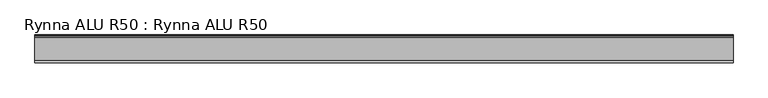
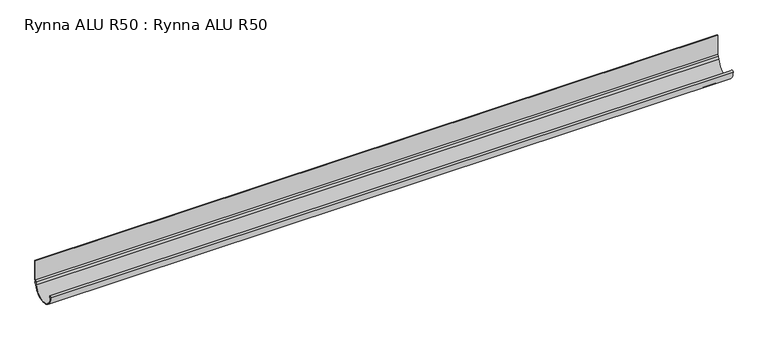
"""IFC4 building model written with IfcOpenShell, lengths in millimetres: proxy geometry, Rynna ALU R50 : Rynna ALU R50."""

from ifc_helpers import new_model, si_unit, point, frame, frame_2d, origin, place, context, project, spatial, polyline, circle_curve, trimmed, segment, composite_curve, outline, extrude, source, transform, mapped, element, save


def rynna_alu_r50_rynna_alu_r50_1eff210a(model_context):
    return source(origin(), model_context, "Body", "SweptSolid", [
        extrude(outline(composite_curve([segment(polyline([(0.6978396, 0.0), (0.6978396, -39.5252625), (-1.8149767, -41.8701356), (-2.328284, -45.5225054), (0.9565767, -44.1281649), (0.1767814, -46.0765907), (-2.6292486, -47.6619658)]), True, "CONTINUOUS"), segment(trimmed(circle_curve(frame_2d((-27.3646611, -44.302303)), 24.9625312), [point((-2.6292486, -47.6619658))], [point((-52.3271923, -44.302303))], False, "CARTESIAN"), True, "CONTINUOUS"), segment(trimmed(circle_curve(frame_2d((-50.3771937, -44.3000011)), 1.95), [point((-52.3271923, -44.302303))], [point((-50.8512717, -46.1914952))], False, "CARTESIAN"), True, "CONTINUOUS"), segment(trimmed(circle_curve(frame_2d((-27.3646611, -44.302303)), 23.5624686), [point((-50.8512717, -46.1914952))], [point((-3.9370468, -46.8196069))], True, "CARTESIAN"), True, "CONTINUOUS"), segment(polyline([(-3.9370468, -46.8196069), (-3.0707013, -41.065916), (-0.7021617, -38.7702547), (-0.7021617, 0.0), (0.6978396, 0.0)]), True, "CONTINUOUS")], self_intersect=False)), frame((-663.9801817, 0.0, 0.0), z_axis=(1.0, 0.0, 0.0), x_axis=(0.0, 1.0, 0.0)), (0.0, 0.0, 1.0), 1327.9603634),
    ])


if __name__ == "__main__":
    model = new_model("IFC4")
    model_context = context("Model", 3, world=origin())
    ifc_project = project(units=[si_unit("LENGTHUNIT", "METRE", prefix="MILLI")], contexts=[model_context])
    site = spatial("IfcSite", under=ifc_project)
    building = spatial("IfcBuilding", under=site)
    placement = place(None, origin())
    rynna_alu_r50_rynna_alu_r50_shape = rynna_alu_r50_rynna_alu_r50_1eff210a(model_context)
    element("IfcBuildingElementProxy", 1, Name="Rynna ALU R50 : Rynna ALU R50", ObjectType="Rynna ALU R50 : Rynna ALU R50", at=placement, inside=building, context=model_context, shape_type="MappedRepresentation", body=[
        mapped(rynna_alu_r50_rynna_alu_r50_shape, transform((0.0, 0.0, 0.0), x_axis=(1.0, 0.0, 0.0), y_axis=(0.0, 1.0, 0.0), z_axis=(0.0, 0.0, 1.0))),
    ])
    save(model, "model.ifc")
